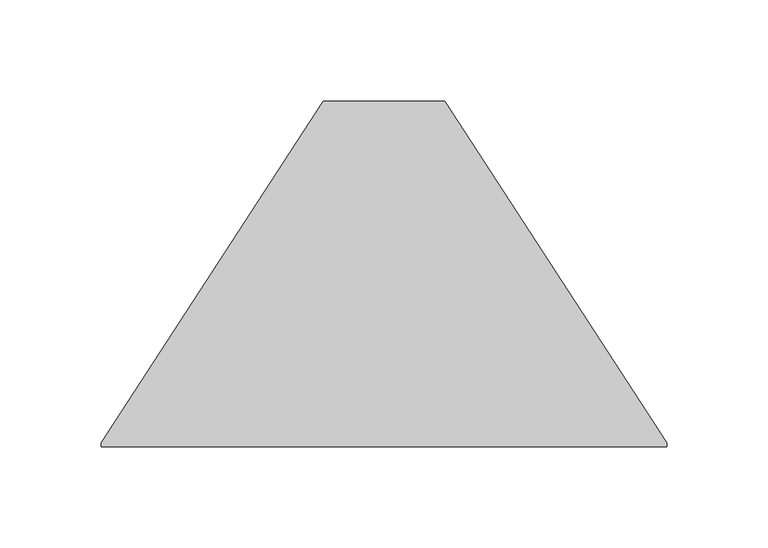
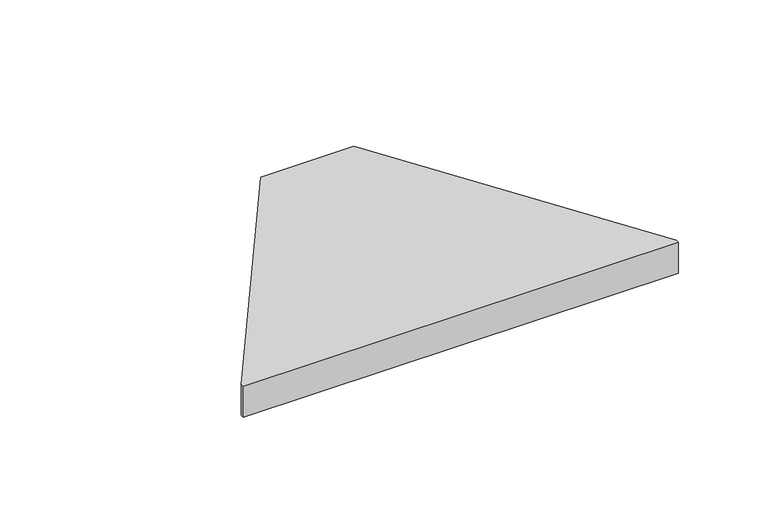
"""IFC4 building model written with IfcOpenShell, lengths in millimetres: cable carrier fitting geometry, BAKS_LD_CONN_Vertical connector light_LPLS : LPLS60."""

from ifc_helpers import new_model, si_unit, origin, place, context, project, spatial, faceted_brep, source, transform, mapped, element, save


def cable_carrier_fitting_c89aad98(model_context):
    return source(origin(), model_context, "Body", "Brep", [
        faceted_brep([(-140.0, 0.0, 2.0), (-140.0, -2.0, 2.0), (140.0, -2.0, 2.0), (140.0, 0.0, 2.0), (30.0, 169.0, 2.0), (-30.0, 169.0, 2.0), (140.0, 0.0, 0.0), (-140.0, 0.0, 0.0), (-30.0, 169.0, 0.0), (30.0, 169.0, 0.0), (140.0, -2.0, -19.0), (-140.0, -2.0, -19.0), (-140.0, 0.0, -19.0), (140.0, 0.0, -19.0)], [[[0, 1, 2, 3, 4, 5]], [[6, 7, 8, 9]], [[5, 8, 7, 0]], [[4, 9, 8, 5]], [[3, 6, 9, 4]], [[10, 11, 12, 13]], [[10, 2, 1, 11]], [[11, 1, 0, 7, 12]], [[12, 7, 6, 13]], [[13, 6, 3, 2, 10]]]),
    ])


if __name__ == "__main__":
    model = new_model("IFC4")
    model_context = context("Model", 3, world=origin())
    ifc_project = project(units=[si_unit("LENGTHUNIT", "METRE", prefix="MILLI")], contexts=[model_context])
    site = spatial("IfcSite", under=ifc_project)
    building = spatial("IfcBuilding", under=site)
    placement = place(None, origin())
    cable_carrier_fitting_shape = cable_carrier_fitting_c89aad98(model_context)
    element("IfcCableCarrierFitting", 1, ObjectType="BAKS_LD_CONN_Vertical connector light_LPLS : LPLS60", at=placement, inside=building, context=model_context, shape_type="MappedRepresentation", body=[
        mapped(cable_carrier_fitting_shape, transform((0.0, 0.0, 0.0), x_axis=(1.0, 0.0, 0.0), y_axis=(0.0, 1.0, 0.0), z_axis=(0.0, 0.0, 1.0))),
    ])
    save(model, "model.ifc")
